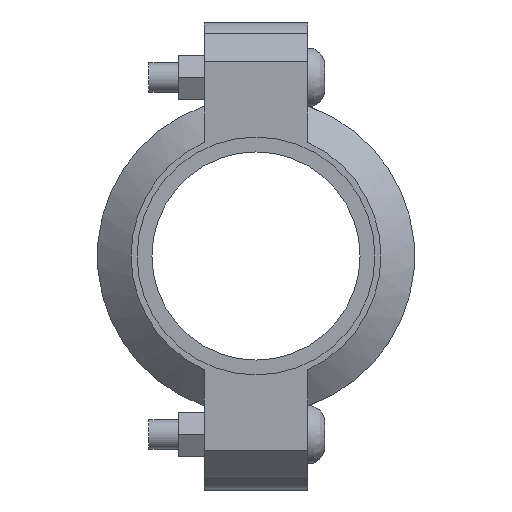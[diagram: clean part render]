
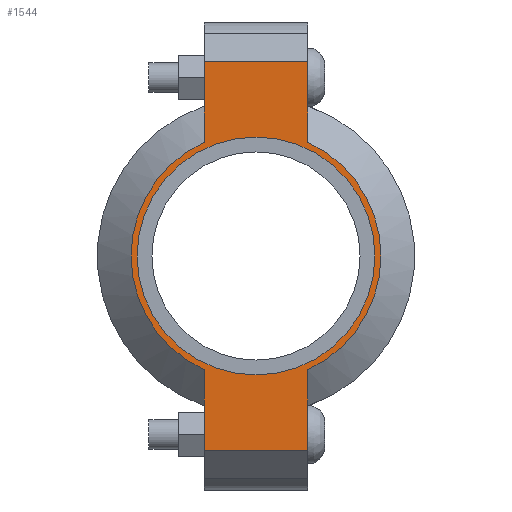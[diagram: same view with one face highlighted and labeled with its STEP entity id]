
A CAD part, left-side view. The second image highlights one B-rep face of the part: STEP entity #1544.
In plain terms, the highlighted planar face has unit normal (-1, 0, 0) as drawn and (0, 0, 1) by its records, which use the part's own axes.
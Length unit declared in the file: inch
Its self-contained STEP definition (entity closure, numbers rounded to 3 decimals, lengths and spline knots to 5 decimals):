
#150=LINE('',#2709,#245);
#163=LINE('',#2753,#258);
#168=LINE('',#2777,#263);
#175=LINE('',#2795,#270);
#182=LINE('',#2820,#277);
#183=LINE('',#2823,#278);
#245=VECTOR('',#2187,0.3937);
#258=VECTOR('',#2216,0.3937);
#263=VECTOR('',#2227,0.3937);
#270=VECTOR('',#2244,0.3937);
#277=VECTOR('',#2265,0.3937);
#278=VECTOR('',#2270,0.3937);
#330=FACE_BOUND('',#508,.T.);
#403=FACE_OUTER_BOUND('',#507,.T.);
#507=EDGE_LOOP('',(#1299,#1300,#1301,#1302,#1303,#1304,#1305,#1306));
#508=EDGE_LOOP('',(#1307));
#577=CIRCLE('',#1761,1.5);
#605=CIRCLE('',#1824,1.575);
#606=CIRCLE('',#1825,1.575);
#669=VERTEX_POINT('',#2497);
#712=VERTEX_POINT('',#2704);
#713=VERTEX_POINT('',#2708);
#729=VERTEX_POINT('',#2750);
#730=VERTEX_POINT('',#2752);
#736=VERTEX_POINT('',#2772);
#737=VERTEX_POINT('',#2776);
#742=VERTEX_POINT('',#2792);
#743=VERTEX_POINT('',#2794);
#827=EDGE_CURVE('',#669,#669,#577,.T.);
#889=EDGE_CURVE('',#713,#712,#150,.T.);
#909=EDGE_CURVE('',#730,#729,#163,.T.);
#918=EDGE_CURVE('',#737,#736,#168,.T.);
#927=EDGE_CURVE('',#743,#742,#175,.T.);
#939=EDGE_CURVE('',#737,#729,#182,.T.);
#940=EDGE_CURVE('',#736,#743,#605,.T.);
#941=EDGE_CURVE('',#713,#742,#183,.T.);
#942=EDGE_CURVE('',#712,#730,#606,.T.);
#1299=ORIENTED_EDGE('',*,*,#939,.F.);
#1300=ORIENTED_EDGE('',*,*,#918,.T.);
#1301=ORIENTED_EDGE('',*,*,#940,.T.);
#1302=ORIENTED_EDGE('',*,*,#927,.T.);
#1303=ORIENTED_EDGE('',*,*,#941,.F.);
#1304=ORIENTED_EDGE('',*,*,#889,.T.);
#1305=ORIENTED_EDGE('',*,*,#942,.T.);
#1306=ORIENTED_EDGE('',*,*,#909,.T.);
#1307=ORIENTED_EDGE('',*,*,#827,.T.);
#1385=PLANE('',#1823);
#1544=ADVANCED_FACE('',(#403,#330),#1385,.T.);
#1761=AXIS2_PLACEMENT_3D('',#2499,#2067,#2068);
#1823=AXIS2_PLACEMENT_3D('',#2821,#2266,#2267);
#1824=AXIS2_PLACEMENT_3D('',#2822,#2268,#2269);
#1825=AXIS2_PLACEMENT_3D('',#2824,#2271,#2272);
#2067=DIRECTION('center_axis',(0.,0.,-1.));
#2068=DIRECTION('ref_axis',(-1.,0.,0.));
#2187=DIRECTION('',(-1.,0.,0.));
#2216=DIRECTION('',(-1.,0.,0.));
#2227=DIRECTION('',(1.,0.,0.));
#2244=DIRECTION('',(1.,0.,0.));
#2265=DIRECTION('',(0.,1.,0.));
#2266=DIRECTION('center_axis',(0.,0.,1.));
#2267=DIRECTION('ref_axis',(1.,0.,0.));
#2268=DIRECTION('center_axis',(0.,0.,1.));
#2269=DIRECTION('ref_axis',(-1.,0.,0.));
#2270=DIRECTION('',(0.,-1.,0.));
#2271=DIRECTION('center_axis',(0.,0.,1.));
#2272=DIRECTION('ref_axis',(-1.,0.,0.));
#2497=CARTESIAN_POINT('',(1.5,0.,0.94));
#2499=CARTESIAN_POINT('Origin',(0.,0.,0.94));
#2704=CARTESIAN_POINT('',(1.43462,0.65,0.94));
#2708=CARTESIAN_POINT('',(2.45,0.65,0.94));
#2709=CARTESIAN_POINT('',(-2.95,0.65,0.94));
#2750=CARTESIAN_POINT('',(-2.45,0.65,0.94));
#2752=CARTESIAN_POINT('',(-1.43462,0.65,0.94));
#2753=CARTESIAN_POINT('',(-2.95,0.65,0.94));
#2772=CARTESIAN_POINT('',(-1.43462,-0.65,0.94));
#2776=CARTESIAN_POINT('',(-2.45,-0.65,0.94));
#2777=CARTESIAN_POINT('',(2.95,-0.65,0.94));
#2792=CARTESIAN_POINT('',(2.45,-0.65,0.94));
#2794=CARTESIAN_POINT('',(1.43462,-0.65,0.94));
#2795=CARTESIAN_POINT('',(2.95,-0.65,0.94));
#2820=CARTESIAN_POINT('',(-2.45,0.325,0.94));
#2821=CARTESIAN_POINT('Origin',(0.,0.,
0.94));
#2822=CARTESIAN_POINT('Origin',(0.,0.,0.94));
#2823=CARTESIAN_POINT('',(2.45,-0.325,0.94));
#2824=CARTESIAN_POINT('Origin',(0.,0.,0.94));
